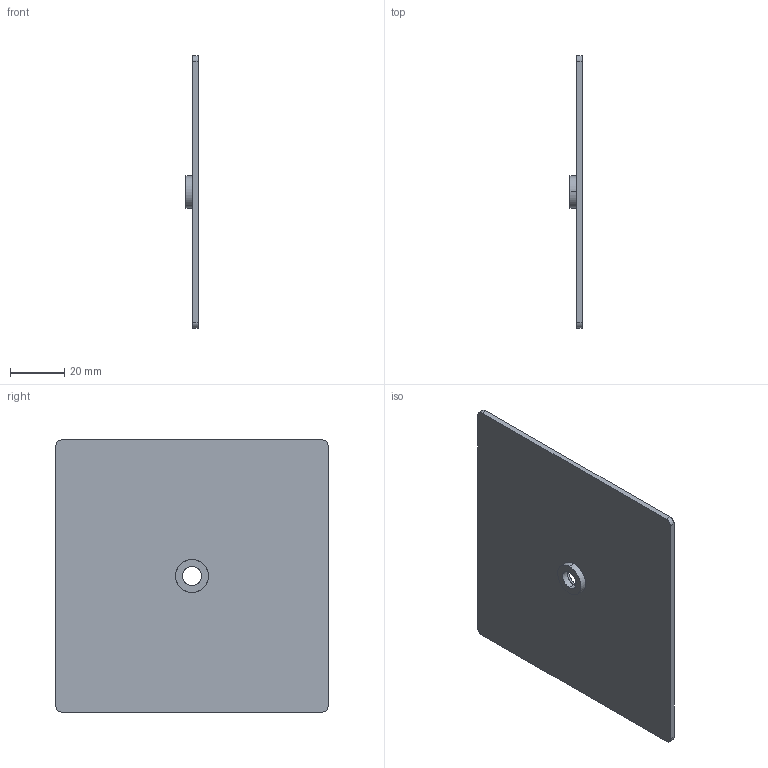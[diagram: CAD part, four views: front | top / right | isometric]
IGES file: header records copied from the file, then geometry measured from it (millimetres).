
Start section: SolidWorks IGES file using analytic representation for surfaces
Global section: file name: C:\Users\tungari.NEMOLIGHTING\Desktop\3D\PENDANT\ACCESSORIES\CEILING_PLATE\CEILING_PLATE.IGS; native system: SolidWorks 2016; preprocessor: SolidWorks 2016; author: tungari; date: 180409.144233; units: millimetre
Bounding box: 4.5 x 100 x 100 mm (x, y, z)
Surface area: 20922.6 mm2 (no closed solid volume)
Topology: 0 solids, 0 shells, 18 faces, 320 edges, 320 vertices
Faces by surface type: revolution 10, bspline 8
